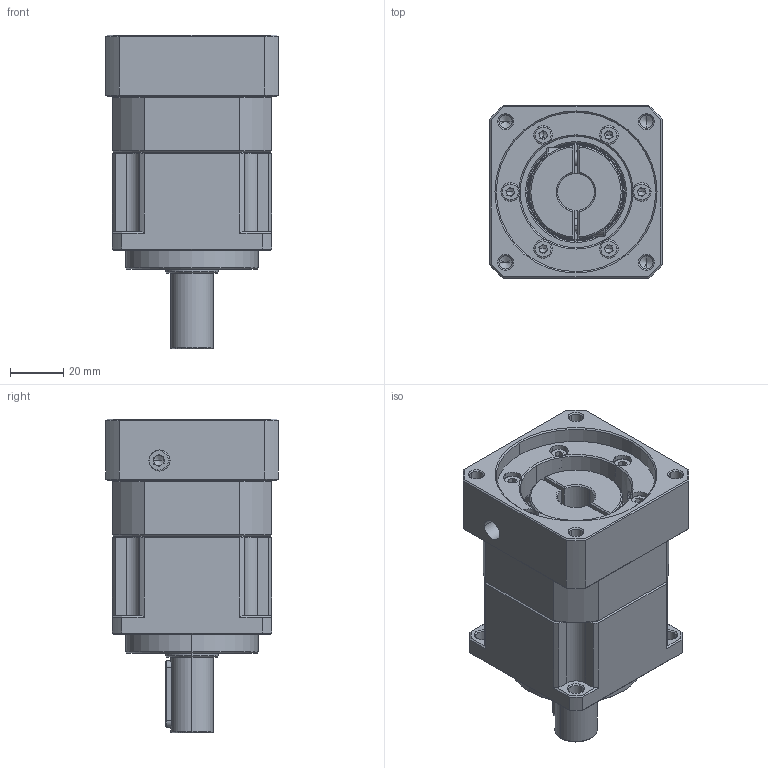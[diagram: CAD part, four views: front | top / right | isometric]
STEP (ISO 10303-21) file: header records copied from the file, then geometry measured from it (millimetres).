
FILE_DESCRIPTION (( 'STEP AP214' ), '1' );
FILE_NAME ('ZPB060-D16-L1-P1-14-60-75-M6.step', '2024-04-23T16:09:50', ( 'Windows 蚚誧' ), ( 'Organization' ), 'SwSTEP 2.0', 'SolidWorks 2016', '' );
FILE_SCHEMA (( 'AUTOMOTIVE_DESIGN' ));
Length unit declared in the file: millimetre
Products named in the file (1): ZPB060-D16-L1-P1-14-60-75-M6
Bounding box: 65 x 65 x 118 mm (x, y, z)
Volume: 249585.2 mm3; surface area: 74726 mm2
Topology: 16 solids, 17 shells, 2044 faces, 5759 edges, 3722 vertices
Faces by surface type: plane 1048, bspline 373, cylinder 301, cone 180, torus 96, sphere 46
Entity records: 107566 total; most frequent: CARTESIAN_POINT 35632, ORIENTED_EDGE 11180, DIRECTION 8718, EDGE_CURVE 5590, VERTEX_POINT 3653, LINE 3344, VECTOR 3344, AXIS2_PLACEMENT_3D 2687
